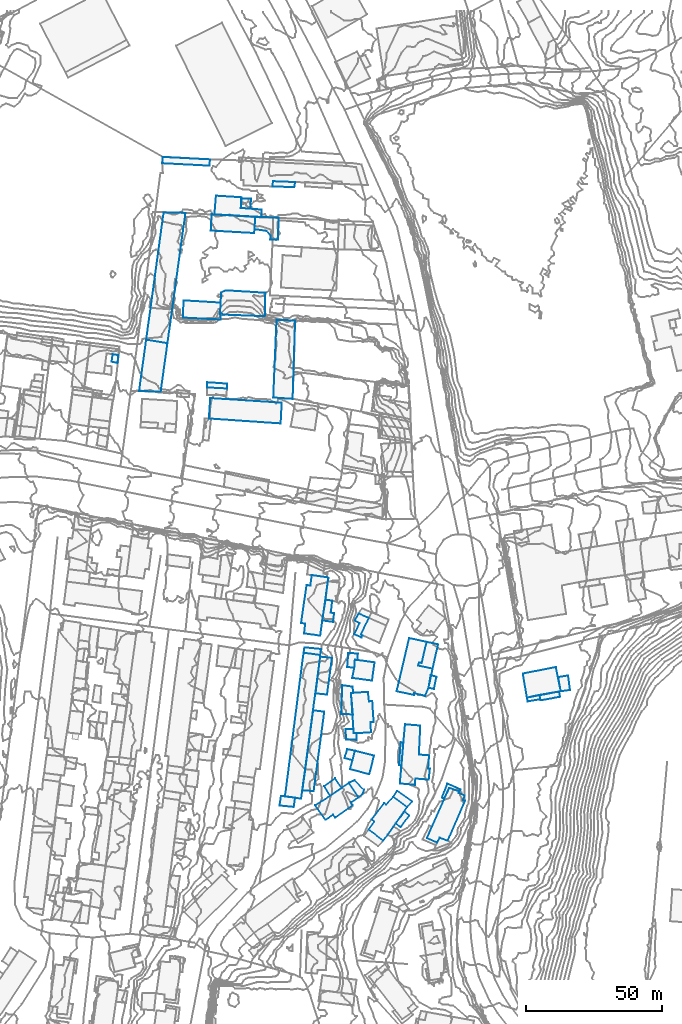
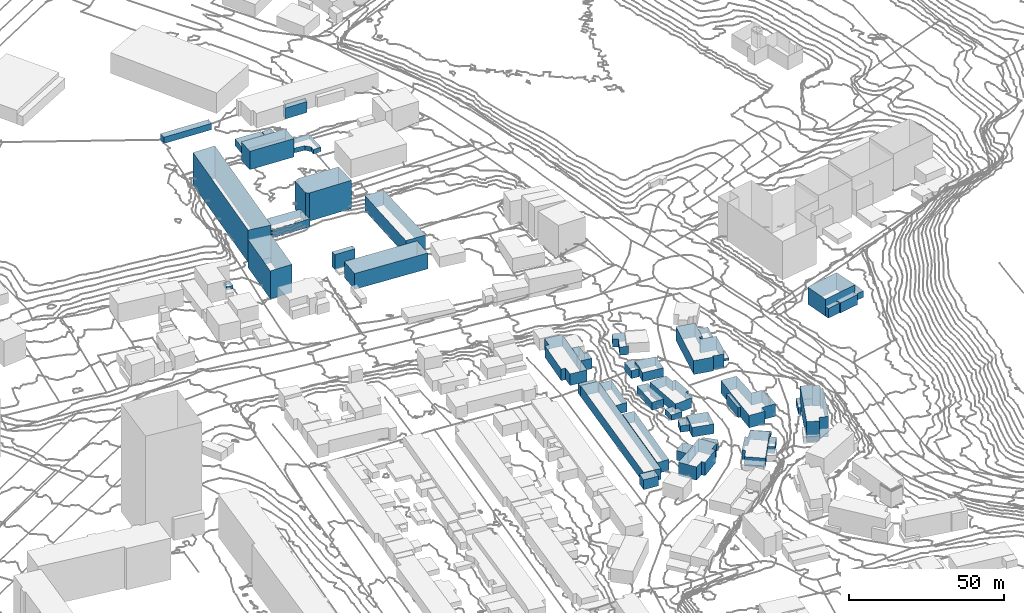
# Not in any storey, part 63 of 419: 46 walls.
"""IFC2X3 model written with IfcOpenShell, lengths in metres."""

from ifc_helpers import new_model, si_unit, frame, origin_with_axes, place, context, subcontext, project, faceted_brep, element, save


model = new_model("IFC2X3")

# Units and contexts
model_context = context("Model", 3, precision=1e-05, world=origin_with_axes())
body_context = subcontext(model_context, "Body", "Model", "MODEL_VIEW")
ifc_project = project(units=[si_unit("AREAUNIT", "SQUARE_METRE"), si_unit("LENGTHUNIT", "METRE")], contexts=[model_context])

# Walls
wall_1_placement = place(None, frame((586.9920204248, 808.9976909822, 41.813999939), z_axis=(0.0, 0.0, 1.0), x_axis=(1.0, 0.0, 0.0)))
element("IfcWall", 1, at=wall_1_placement, Name="Mur 0", context=body_context, shape_type="Brep", body=[
    faceted_brep([(0.0, 0.0, 4.086000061), (1.2999999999, 7.6000000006, 4.086000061), (0.0, 0.0, 0.0), (1.2999999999, 7.6000000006, 0.0), (4.0, -0.5999999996, 4.086000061), (4.0, -0.5999999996, 0.0), (4.4, 2.6000000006, 4.086000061), (4.4, 2.6000000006, 0.0), (3.2, 2.8000000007, 4.086000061), (3.2, 2.8000000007, 0.0), (3.7, 7.2000000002, 4.086000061), (3.7, 7.2000000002, 0.0)], [[[0, 1, 2]], [[2, 1, 3]], [[4, 0, 5]], [[5, 0, 2]], [[6, 4, 7]], [[7, 4, 5]], [[8, 6, 9]], [[9, 6, 7]], [[1, 10, 3]], [[3, 10, 11]], [[10, 8, 11]], [[11, 8, 9]]]),
])
wall_2_placement = place(None, frame((615.4920204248, 749.1976909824, 45.7645987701), z_axis=(0.0, 0.0, 1.0), x_axis=(1.0, 0.0, 0.0)))
element("IfcWall", 2, at=wall_2_placement, Name="Mur 0", context=body_context, shape_type="Brep", body=[
    faceted_brep([(0.0, 0.0, 4.9354012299), (1.2999999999, 15.0, 4.9354012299), (0.0, 0.0, 0.0), (1.2999999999, 15.0, 0.0), (5.5, -0.5, 4.9354012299), (5.5, -0.5, 0.0), (5.7, 1.7999999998, 4.9354012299), (5.7, 1.7999999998, 0.0), (10.6, 1.4000000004, 4.9354012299), (10.6, 1.4000000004, 0.0), (11.0, 5.4000000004, 4.9354012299), (11.0, 5.4000000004, 0.0), (10.4, 5.4000000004, 4.9354012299), (10.4, 5.4000000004, 0.0), (10.7, 10.2999999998, 4.9354012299), (10.7, 10.2999999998, 0.0), (7.0, 10.6000000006, 4.9354012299), (7.0, 10.6000000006, 0.0), (7.5, 21.2000000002, 4.9354012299), (7.5, 21.2000000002, 0.0), (1.9, 21.7000000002, 4.9354012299), (1.9, 21.7000000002, 0.0)], [[[0, 1, 2]], [[2, 1, 3]], [[4, 0, 5]], [[5, 0, 2]], [[6, 4, 7]], [[7, 4, 5]], [[8, 6, 9]], [[9, 6, 7]], [[10, 8, 11]], [[11, 8, 9]], [[12, 10, 13]], [[13, 10, 11]], [[14, 12, 15]], [[15, 12, 13]], [[16, 14, 17]], [[17, 14, 15]], [[18, 16, 19]], [[19, 16, 17]], [[1, 20, 3]], [[3, 20, 21]], [[20, 18, 21]], [[21, 18, 19]]]),
])
wall_3_placement = place(None, frame((625.3920204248, 729.1976909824, 48.9099983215), z_axis=(0.0, 0.0, 1.0), x_axis=(1.0, 0.0, 0.0)))
element("IfcWall", 3, at=wall_3_placement, Name="Mur 0", context=body_context, shape_type="Brep", body=[
    faceted_brep([(14.0, 13.7000000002, 7.9900016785), (7.6, -1.0, 7.9900016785), (14.0, 13.7000000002, 0.0), (7.6, -1.0, 0.0), (13.2, 13.9000000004, 7.9900016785), (13.2, 13.9000000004, 0.0), (13.8999999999, 15.5, 7.9900016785), (13.8999999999, 15.5, 0.0), (11.7, 16.5, 7.9900016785), (11.7, 16.5, 0.0), (11.8999999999, 17.0, 7.9900016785), (11.8999999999, 17.0, 0.0), (8.2, 18.4000000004, 7.9900016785), (8.2, 18.4000000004, 0.0), (0.0, 0.0, 7.9900016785), (0.0, 0.0, 0.0), (3.7, -1.7000000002, 7.9900016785), (3.7, -1.7000000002, 0.0), (4.7, 0.1000000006, 7.9900016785), (4.7, 0.1000000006, 0.0)], [[[0, 1, 2]], [[2, 1, 3]], [[4, 0, 5]], [[5, 0, 2]], [[6, 4, 7]], [[7, 4, 5]], [[8, 6, 9]], [[9, 6, 7]], [[10, 8, 11]], [[11, 8, 9]], [[12, 10, 13]], [[13, 10, 11]], [[14, 12, 15]], [[15, 12, 13]], [[16, 14, 17]], [[17, 14, 15]], [[1, 18, 3]], [[3, 18, 19]], [[18, 16, 19]], [[19, 16, 17]]]),
])
wall_4_placement = place(None, frame((546.1920204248, 951.8976909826, 48.9189990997), z_axis=(0.0, 0.0, 1.0), x_axis=(1.0, 0.0, 0.0)))
element("IfcWall", 4, at=wall_4_placement, Name="Mur 0", context=body_context, shape_type="Brep", body=[
    faceted_brep([(0.0, 0.0, 7.2810009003), (0.3, 6.0, 7.2810009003), (0.0, 0.0, 0.0), (0.3, 6.0, 0.0), (15.9, -0.9000000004, 7.2810009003), (15.9, -0.9000000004, 0.0), (16.3, 5.0999999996, 7.2810009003), (16.3, 5.0999999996, 0.0)], [[[0, 1, 2]], [[2, 1, 3]], [[4, 0, 5]], [[5, 0, 2]], [[1, 6, 3]], [[3, 6, 7]], [[6, 4, 7]], [[7, 4, 5]]]),
])
wall_5_placement = place(None, frame((545.4920204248, 882.9976909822, 43.7359992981), z_axis=(0.0, 0.0, 1.0), x_axis=(1.0, 0.0, 0.0)))
element("IfcWall", 5, at=wall_5_placement, Name="Mur 0", context=body_context, shape_type="Brep", body=[
    faceted_brep([(26.2999999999, -1.7999999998, 6.2640007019), (0.0, 0.0, 6.2640007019), (26.2999999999, -1.7999999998, 0.0), (0.0, 0.0, 0.0), (26.7, 5.8000000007, 6.2640007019), (26.7, 5.8000000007, 0.0), (0.5, 7.5, 6.2640007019), (0.5, 7.5, 0.0)], [[[0, 1, 2]], [[2, 1, 3]], [[4, 0, 5]], [[5, 0, 2]], [[1, 6, 3]], [[3, 6, 7]], [[6, 4, 7]], [[7, 4, 5]]]),
])
wall_6_placement = place(None, frame((580.1920204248, 797.0976909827, 41.4371005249), z_axis=(0.0, 0.0, 1.0), x_axis=(1.0, 0.0, 0.0)))
element("IfcWall", 6, at=wall_6_placement, Name="Mur 0", context=body_context, shape_type="Brep", body=[
    faceted_brep([(6.1, -0.7999999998, 3.7628994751), (0.0, 0.0, 3.7628994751), (6.1, -0.7999999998, 0.0), (0.0, 0.0, 0.0), (6.4, 1.3999999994, 3.7628994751), (6.4, 1.3999999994, 0.0), (0.3, 2.0, 3.7628994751), (0.3, 2.0, 0.0)], [[[0, 1, 2]], [[2, 1, 3]], [[4, 0, 5]], [[5, 0, 2]], [[1, 6, 3]], [[3, 6, 7]], [[6, 4, 7]], [[7, 4, 5]]]),
])
wall_7_placement = place(None, frame((660.5920204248, 789.4976909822, 54.3660003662), z_axis=(0.0, 0.0, 1.0), x_axis=(1.0, 0.0, 0.0)))
element("IfcWall", 7, at=wall_7_placement, Name="Mur 0", context=body_context, shape_type="Brep", body=[
    faceted_brep([(13.9, -6.5, 6.7339996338), (1.5, -8.7999999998, 6.7339996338), (13.9, -6.5, 0.0), (1.5, -8.7999999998, 0.0), (12.1, 2.4000000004, 6.7339996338), (12.1, 2.4000000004, 0.0), (0.0, 0.0, 6.7339996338), (0.0, 0.0, 0.0)], [[[0, 1, 2]], [[2, 1, 3]], [[4, 0, 5]], [[5, 0, 2]], [[1, 6, 3]], [[3, 6, 7]], [[6, 4, 7]], [[7, 4, 5]]]),
])
wall_8_placement = place(None, frame((579.7920204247, 746.6976909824, 41.7746002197), z_axis=(0.0, 0.0, 1.0), x_axis=(1.0, 0.0, 0.0)))
element("IfcWall", 8, at=wall_8_placement, Name="Mur 0", context=body_context, shape_type="Brep", body=[
    faceted_brep([(4.1000000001, -0.2999999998, 4.3253997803), (0.0, 0.0, 4.3253997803), (4.1000000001, -0.2999999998, 0.0), (0.0, 0.0, 0.0), (8.0, 28.7999999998, 4.3253997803), (8.0, 28.7999999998, 0.0), (3.9, 29.2999999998, 4.3253997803), (3.9, 29.2999999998, 0.0)], [[[0, 1, 2]], [[2, 1, 3]], [[4, 0, 5]], [[5, 0, 2]], [[1, 6, 3]], [[3, 6, 7]], [[6, 4, 7]], [[7, 4, 5]]]),
])
wall_9_placement = place(None, frame((579.2920204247, 807.9976909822, 41.4112002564), z_axis=(0.0, 0.0, 1.0), x_axis=(1.0, 0.0, 0.0)))
element("IfcWall", 9, at=wall_9_placement, Name="Mur 0", context=body_context, shape_type="Brep", body=[
    faceted_brep([(3.9, 17.6000000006, 4.5887997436), (9.4, 16.8000000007, 4.5887997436), (3.9, 17.6000000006, 0.0), (9.4, 16.8000000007, 0.0), (3.4, 13.8000000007, 4.5887997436), (3.4, 13.8000000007, 0.0), (2.0, 13.9000000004, 4.5887997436), (2.0, 13.9000000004, 0.0), (0.0, 0.0, 4.5887997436), (0.0, 0.0, 0.0), (1.5, -0.1999999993, 4.5887997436), (1.5, -0.1999999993, 0.0), (1.1000000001, -3.7999999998, 4.5887997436), (1.1000000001, -3.7999999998, 0.0), (7.0, -4.5999999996, 4.5887997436), (7.0, -4.5999999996, 0.0), (10.0, 16.6000000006, 4.5887997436), (10.0, 16.6000000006, 0.0)], [[[0, 1, 2]], [[2, 1, 3]], [[4, 0, 5]], [[5, 0, 2]], [[6, 4, 7]], [[7, 4, 5]], [[8, 6, 9]], [[9, 6, 7]], [[10, 8, 11]], [[11, 8, 9]], [[12, 10, 13]], [[13, 10, 11]], [[14, 12, 15]], [[15, 12, 13]], [[1, 16, 3]], [[3, 16, 17]], [[16, 14, 17]], [[17, 14, 15]]]),
])
wall_10_placement = place(None, frame((666.6920204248, 781.6976909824, 54.5365005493), z_axis=(0.0, 0.0, 1.0), x_axis=(1.0, 0.0, 0.0)))
element("IfcWall", 10, at=wall_10_placement, Name="Mur 0", context=body_context, shape_type="Brep", body=[
    faceted_brep([(0.4, -2.0, 3.9634994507), (0.3, -1.5999999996, 3.9634994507), (0.4, -2.0, 0.0), (0.3, -1.5999999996, 0.0), (7.6, -0.7000000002, 3.9634994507), (7.6, -0.7000000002, 0.0), (7.2000000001, 1.2000000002, 3.9634994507), (7.2000000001, 1.2000000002, 0.0), (0.0, 0.0, 3.9634994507), (0.0, 0.0, 0.0)], [[[0, 1, 2]], [[2, 1, 3]], [[4, 0, 5]], [[5, 0, 2]], [[6, 4, 7]], [[7, 4, 5]], [[1, 8, 3]], [[3, 8, 9]], [[8, 6, 9]], [[9, 6, 7]]]),
])
wall_11_placement = place(None, frame((630.8920204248, 743.9976909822, 48.7660001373), z_axis=(0.0, 0.0, 1.0), x_axis=(1.0, 0.0, 0.0)))
element("IfcWall", 11, at=wall_11_placement, Name="Mur 0", context=body_context, shape_type="Brep", body=[
    faceted_brep([(6.7999999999, 3.0, 2.7339998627), (6.3999999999, 2.2000000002, 2.7339998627), (6.7999999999, 3.0, 0.0), (6.3999999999, 2.2000000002, 0.0), (2.0, 5.2000000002, 2.7339998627), (2.0, 5.2000000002, 0.0), (0.0, 0.0, 2.7339998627), (0.0, 0.0, 0.0), (0.7999999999, -0.2999999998, 2.7339998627), (0.7999999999, -0.2999999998, 0.0), (2.7, 3.6000000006, 2.7339998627), (2.7, 3.6000000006, 0.0)], [[[0, 1, 2]], [[2, 1, 3]], [[4, 0, 5]], [[5, 0, 2]], [[6, 4, 7]], [[7, 4, 5]], [[8, 6, 9]], [[9, 6, 7]], [[1, 10, 3]], [[3, 10, 11]], [[10, 8, 11]], [[11, 8, 9]]]),
])
wall_12_placement = place(None, frame((595.5920204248, 769.1976909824, 45.8778006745), z_axis=(0.0, 0.0, 1.0), x_axis=(1.0, 0.0, 0.0)))
element("IfcWall", 12, at=wall_12_placement, Name="Mur 0", context=body_context, shape_type="Brep", body=[
    faceted_brep([(3.0, -1.5999999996, 2.1221993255), (4.0, -1.5999999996, 2.1221993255), (3.0, -1.5999999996, 0.0), (4.0, -1.5999999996, 0.0), (3.0, 0.0, 2.1221993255), (3.0, 0.0, 0.0), (0.0, 0.0, 2.1221993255), (0.0, 0.0, 0.0), (0.2, -3.8999999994, 2.1221993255), (0.2, -3.8999999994, 0.0), (4.0, -4.0, 2.1221993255), (4.0, -4.0, 0.0)], [[[0, 1, 2]], [[2, 1, 3]], [[4, 0, 5]], [[5, 0, 2]], [[6, 4, 7]], [[7, 4, 5]], [[8, 6, 9]], [[9, 6, 7]], [[1, 10, 3]], [[3, 10, 11]], [[10, 8, 11]], [[11, 8, 9]]]),
])
wall_13_placement = place(None, frame((613.8920204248, 734.4976909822, 45.300499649), z_axis=(0.0, 0.0, 1.0), x_axis=(1.0, 0.0, 0.0)))
element("IfcWall", 13, at=wall_13_placement, Name="Mur 0", context=body_context, shape_type="Brep", body=[
    faceted_brep([(0.0, 0.0, 2.699500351), (3.2999999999, 4.4000000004, 2.699500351), (0.0, 0.0, 0.0), (3.2999999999, 4.4000000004, 0.0), (1.8999999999, -1.2999999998, 2.699500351), (1.8999999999, -1.2999999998, 0.0), (5.0, 3.0, 2.699500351), (5.0, 3.0, 0.0)], [[[0, 1, 2]], [[2, 1, 3]], [[4, 0, 5]], [[5, 0, 2]], [[1, 6, 3]], [[3, 6, 7]], [[6, 4, 7]], [[7, 4, 5]]]),
])
wall_14_placement = place(None, frame((596.7920204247, 749.4976909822, 44.927999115), z_axis=(0.0, 0.0, 1.0), x_axis=(1.0, 0.0, 0.0)))
element("IfcWall", 14, at=wall_14_placement, Name="Mur 0", context=body_context, shape_type="Brep", body=[
    faceted_brep([(3.6000000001, -5.3999999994, 2.172000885), (0.0, 0.0, 2.172000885), (3.6000000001, -5.3999999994, 0.0), (0.0, 0.0, 0.0), (5.0, -4.0999999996, 2.172000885), (5.0, -4.0999999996, 0.0), (5.6000000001, -2.5999999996, 2.172000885), (5.6000000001, -2.5999999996, 0.0), (2.1000000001, 0.9000000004, 2.172000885), (2.1000000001, 0.9000000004, 0.0)], [[[0, 1, 2]], [[2, 1, 3]], [[4, 0, 5]], [[5, 0, 2]], [[6, 4, 7]], [[7, 4, 5]], [[1, 8, 3]], [[3, 8, 9]], [[8, 6, 9]], [[9, 6, 7]]]),
])
wall_15_placement = place(None, frame((622.1920204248, 792.3976909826, 47.4609009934), z_axis=(0.0, 0.0, 1.0), x_axis=(1.0, 0.0, 0.0)))
element("IfcWall", 15, at=wall_15_placement, Name="Mur 0", context=body_context, shape_type="Brep", body=[
    faceted_brep([(1.3, 1.0, 2.2390990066), (3.1, 8.7000000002, 2.2390990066), (1.3, 1.0, 0.0), (3.1, 8.7000000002, 0.0), (0.3, 1.2000000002, 2.2390990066), (0.3, 1.2000000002, 0.0), (0.0, 0.0, 2.2390990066), (0.0, 0.0, 0.0), (5.3, -1.0999999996, 2.2390990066), (5.3, -1.0999999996, 0.0), (7.3, 7.7999999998, 2.2390990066), (7.3, 7.7999999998, 0.0)], [[[0, 1, 2]], [[2, 1, 3]], [[4, 0, 5]], [[5, 0, 2]], [[6, 4, 7]], [[7, 4, 5]], [[8, 6, 9]], [[9, 6, 7]], [[1, 10, 3]], [[3, 10, 11]], [[10, 8, 11]], [[11, 8, 9]]]),
])
wall_16_placement = place(None, frame((528.3920204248, 976.5976909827, 50.4814996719), z_axis=(0.0, 0.0, 1.0), x_axis=(1.0, 0.0, 0.0)))
element("IfcWall", 16, at=wall_16_placement, Name="Mur 0", context=body_context, shape_type="Brep", body=[
    faceted_brep([(17.2999999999, -0.9000000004, 2.5185003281), (0.0, 0.0, 2.5185003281), (17.2999999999, -0.9000000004, 0.0), (0.0, 0.0, 0.0), (17.5, 1.3999999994, 2.5185003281), (17.5, 1.3999999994, 0.0), (0.1, 2.2999999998, 2.5185003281), (0.1, 2.2999999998, 0.0)], [[[0, 1, 2]], [[2, 1, 3]], [[4, 0, 5]], [[5, 0, 2]], [[1, 6, 3]], [[3, 6, 7]], [[6, 4, 7]], [[7, 4, 5]]]),
])
wall_17_placement = place(None, frame((568.7920204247, 968.0976909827, 51.176399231), z_axis=(0.0, 0.0, 1.0), x_axis=(1.0, 0.0, 0.0)))
element("IfcWall", 17, at=wall_17_placement, Name="Mur 0", context=body_context, shape_type="Brep", body=[
    faceted_brep([(0.2000000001, 1.8999999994, 4.323600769), (8.3, 1.5999999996, 4.323600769), (0.2000000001, 1.8999999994, 0.0), (8.3, 1.5999999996, 0.0), (0.0, 0.0, 4.323600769), (0.0, 0.0, 0.0), (8.0, -0.2999999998, 4.323600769), (8.0, -0.2999999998, 0.0)], [[[0, 1, 2]], [[2, 1, 3]], [[4, 0, 5]], [[5, 0, 2]], [[1, 6, 3]], [[3, 6, 7]], [[6, 4, 7]], [[7, 4, 5]]]),
])
wall_18_placement = place(None, frame((522.4920204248, 911.8976909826, 44.8530002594), z_axis=(0.0, 0.0, 1.0), x_axis=(1.0, 0.0, 0.0)))
element("IfcWall", 18, at=wall_18_placement, Name="Mur 0", context=body_context, shape_type="Brep", body=[
    faceted_brep([(6.4, 46.7000000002, 12.8469997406), (14.4, 46.5, 12.8469997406), (6.4, 46.7000000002, 0.0), (14.4, 46.5, 0.0), (0.0, 0.0, 12.8469997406), (0.0, 0.0, 0.0), (7.7999999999, -1.2999999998, 12.8469997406), (7.7999999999, -1.2999999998, 0.0)], [[[0, 1, 2]], [[2, 1, 3]], [[4, 0, 5]], [[5, 0, 2]], [[1, 6, 3]], [[3, 6, 7]], [[6, 4, 7]], [[7, 4, 5]]]),
])
wall_19_placement = place(None, frame((509.7920204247, 903.7976909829, 43.3439994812), z_axis=(0.0, 0.0, 1.0), x_axis=(1.0, 0.0, 0.0)))
element("IfcWall", 19, at=wall_19_placement, Name="Mur 0", context=body_context, shape_type="Brep", body=[
    faceted_brep([(0.4, 2.7999999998, 1.3560005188), (2.5, 2.3999999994, 1.3560005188), (0.4, 2.7999999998, 0.0), (2.5, 2.3999999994, 0.0), (0.0, 0.0, 1.3560005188), (0.0, 0.0, 0.0), (2.2000000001, -0.4000000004, 1.3560005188), (2.2000000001, -0.4000000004, 0.0)], [[[0, 1, 2]], [[2, 1, 3]], [[4, 0, 5]], [[5, 0, 2]], [[1, 6, 3]], [[3, 6, 7]], [[6, 4, 7]], [[7, 4, 5]]]),
])
wall_20_placement = place(None, frame((547.4920204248, 957.7976909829, 50.0370014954), z_axis=(0.0, 0.0, 1.0), x_axis=(1.0, 0.0, 0.0)))
element("IfcWall", 20, at=wall_20_placement, Name="Mur 0", context=body_context, shape_type="Brep", body=[
    faceted_brep([(17.2999999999, 1.7999999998, 2.6629985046), (17.2, -1.0, 2.6629985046), (17.2999999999, 1.7999999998, 0.0), (17.2, -1.0, 0.0), (9.7, 2.3999999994, 2.6629985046), (9.7, 2.3999999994, 0.0), (9.9, 6.2999999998, 2.6629985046), (9.9, 6.2999999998, 0.0), (0.6, 6.8999999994, 2.6629985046), (0.6, 6.8999999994, 0.0), (0.0, 0.0, 2.6629985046), (0.0, 0.0, 0.0)], [[[0, 1, 2]], [[2, 1, 3]], [[4, 0, 5]], [[5, 0, 2]], [[6, 4, 7]], [[7, 4, 5]], [[8, 6, 9]], [[9, 6, 7]], [[1, 10, 3]], [[3, 10, 11]], [[10, 8, 11]], [[11, 8, 9]]]),
])
wall_21_placement = place(None, frame((519.8920204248, 893.0976909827, 42.8270998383), z_axis=(0.0, 0.0, 1.0), x_axis=(1.0, 0.0, 0.0)))
element("IfcWall", 21, at=wall_21_placement, Name="Mur 0", context=body_context, shape_type="Brep", body=[
    faceted_brep([(10.3999999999, 17.5, 11.0729001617), (7.8999999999, -0.2999999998, 11.0729001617), (10.3999999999, 17.5, 0.0), (7.8999999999, -0.2999999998, 0.0), (2.6, 18.7999999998, 11.0729001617), (2.6, 18.7999999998, 0.0), (0.0, 0.0, 11.0729001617), (0.0, 0.0, 0.0)], [[[0, 1, 2]], [[2, 1, 3]], [[4, 0, 5]], [[5, 0, 2]], [[1, 6, 3]], [[3, 6, 7]], [[6, 4, 7]], [[7, 4, 5]]]),
])
wall_22_placement = place(None, frame((595.1920204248, 758.4976909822, 45.4780004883), z_axis=(0.0, 0.0, 1.0), x_axis=(1.0, 0.0, 0.0)))
element("IfcWall", 22, at=wall_22_placement, Name="Mur 0", context=body_context, shape_type="Brep", body=[
    faceted_brep([(3.8, 2.7000000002, 2.5219995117), (2.9, -0.7999999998, 2.5219995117), (3.8, 2.7000000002, 0.0), (2.9, -0.7999999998, 0.0), (1.0, 3.3000000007, 2.5219995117), (1.0, 3.3000000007, 0.0), (0.0, 0.0, 2.5219995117), (0.0, 0.0, 0.0)], [[[0, 1, 2]], [[2, 1, 3]], [[4, 0, 5]], [[5, 0, 2]], [[1, 6, 3]], [[3, 6, 7]], [[6, 4, 7]], [[7, 4, 5]]]),
])
wall_23_placement = place(None, frame((544.7920204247, 894.3976909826, 44.8368000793), z_axis=(0.0, 0.0, 1.0), x_axis=(1.0, 0.0, 0.0)))
element("IfcWall", 23, at=wall_23_placement, Name="Mur 0", context=body_context, shape_type="Brep", body=[
    faceted_brep([(7.4, 1.4000000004, 6.0), (7.3, -0.4000000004, 6.0), (7.4, 1.4000000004, 0.0), (7.3, -0.4000000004, 0.0), (0.0, 1.9000000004, 6.0), (0.0, 1.9000000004, 0.0), (0.0, 0.0, 6.0), (0.0, 0.0, 0.0)], [[[0, 1, 2]], [[2, 1, 3]], [[4, 0, 5]], [[5, 0, 2]], [[1, 6, 3]], [[3, 6, 7]], [[6, 4, 7]], [[7, 4, 5]]]),
])
wall_24_placement = place(None, frame((557.1920204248, 960.1976909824, 50.6668013), z_axis=(0.0, 0.0, 1.0), x_axis=(1.0, 0.0, 0.0)))
element("IfcWall", 24, at=wall_24_placement, Name="Mur 0", context=body_context, shape_type="Brep", body=[
    faceted_brep([(0.0, 0.0, 2.2331987), (0.3, 3.4000000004, 2.2331987), (0.0, 0.0, 0.0), (0.3, 3.4000000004, 0.0), (3.6, -0.2999999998, 2.2331987), (3.6, -0.2999999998, 0.0), (3.7000000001, 3.4000000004, 2.2331987), (3.7000000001, 3.4000000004, 0.0)], [[[0, 1, 2]], [[2, 1, 3]], [[4, 0, 5]], [[5, 0, 2]], [[1, 6, 3]], [[3, 6, 7]], [[6, 4, 7]], [[7, 4, 5]]]),
])
wall_25_placement = place(None, frame((535.9920204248, 919.9976909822, 44.891799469), z_axis=(0.0, 0.0, 1.0), x_axis=(1.0, 0.0, 0.0)))
element("IfcWall", 25, at=wall_25_placement, Name="Mur 0", context=body_context, shape_type="Brep", body=[
    faceted_brep([(13.7999999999, 5.5, 3.208200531), (13.6, 1.9000000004, 3.208200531), (13.7999999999, 5.5, 0.0), (13.6, 1.9000000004, 0.0), (0.2, 6.3000000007, 3.208200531), (0.2, 6.3000000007, 0.0), (0.0, 0.0, 3.208200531), (0.0, 0.0, 0.0), (13.7999999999, -0.6999999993, 3.208200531), (13.7999999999, -0.6999999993, 0.0)], [[[0, 1, 2]], [[2, 1, 3]], [[4, 0, 5]], [[5, 0, 2]], [[6, 4, 7]], [[7, 4, 5]], [[1, 8, 3]], [[3, 8, 9]], [[8, 6, 9]], [[9, 6, 7]]]),
])
wall_26_placement = place(None, frame((596.1920204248, 791.8976909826, 46.0429992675), z_axis=(0.0, 0.0, 1.0), x_axis=(1.0, 0.0, 0.0)))
element("IfcWall", 26, at=wall_26_placement, Name="Mur 0", context=body_context, shape_type="Brep", body=[
    faceted_brep([(2.8, 2.7000000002, 3.1570007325), (2.6, -0.2999999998, 3.1570007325), (2.8, 2.7000000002, 0.0), (2.6, -0.2999999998, 0.0), (3.7000000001, 2.5, 3.1570007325), (3.7000000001, 2.5, 0.0), (3.9, 4.9000000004, 3.1570007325), (3.9, 4.9000000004, 0.0), (0.4, 5.2000000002, 3.1570007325), (0.4, 5.2000000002, 0.0), (0.0, 0.0, 3.1570007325), (0.0, 0.0, 0.0)], [[[0, 1, 2]], [[2, 1, 3]], [[4, 0, 5]], [[5, 0, 2]], [[6, 4, 7]], [[7, 4, 5]], [[8, 6, 9]], [[9, 6, 7]], [[1, 10, 3]], [[3, 10, 11]], [[10, 8, 11]], [[11, 8, 9]]]),
])
wall_27_placement = place(None, frame((562.1920204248, 952.3976909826, 49.4711997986), z_axis=(0.0, 0.0, 1.0), x_axis=(1.0, 0.0, 0.0)))
element("IfcWall", 27, at=wall_27_placement, Name="Mur 0", context=body_context, shape_type="Brep", body=[
    faceted_brep([(0.0, 0.0, 1.8288002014), (0.3, 4.5999999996, 1.8288002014), (0.0, 0.0, 0.0), (0.3, 4.5999999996, 0.0), (4.5, -0.5999999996, 1.8288002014), (4.5, -0.5999999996, 0.0), (5.9, -2.2999999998, 1.8288002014), (5.9, -2.2999999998, 0.0), (5.8, -3.7999999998, 1.8288002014), (5.8, -3.7999999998, 0.0), (8.6, -3.7999999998, 1.8288002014), (8.6, -3.7999999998, 0.0), (8.9, 4.2000000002, 1.8288002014), (8.9, 4.2000000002, 0.0)], [[[0, 1, 2]], [[2, 1, 3]], [[4, 0, 5]], [[5, 0, 2]], [[6, 4, 7]], [[7, 4, 5]], [[8, 6, 9]], [[9, 6, 7]], [[10, 8, 11]], [[11, 8, 9]], [[1, 12, 3]], [[3, 12, 13]], [[12, 10, 13]], [[13, 10, 11]]]),
])
wall_28_placement = place(None, frame((597.9920204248, 787.8976909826, 46.6319999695), z_axis=(0.0, 0.0, 1.0), x_axis=(1.0, 0.0, 0.0)))
element("IfcWall", 28, at=wall_28_placement, Name="Mur 0", context=body_context, shape_type="Brep", body=[
    faceted_brep([(0.0, 0.0, 3.5680000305), (0.7999999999, 3.7000000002, 3.5680000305), (0.0, 0.0, 0.0), (0.7999999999, 3.7000000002, 0.0), (7.2999999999, -1.0, 3.5680000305), (7.2999999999, -1.0, 0.0), (8.2, 5.7000000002, 3.5680000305), (8.2, 5.7000000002, 0.0), (1.0, 6.7000000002, 3.5680000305), (1.0, 6.7000000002, 0.0)], [[[0, 1, 2]], [[2, 1, 3]], [[4, 0, 5]], [[5, 0, 2]], [[6, 4, 7]], [[7, 4, 5]], [[1, 8, 3]], [[3, 8, 9]], [[8, 6, 9]], [[9, 6, 7]]]),
])
wall_29_placement = place(None, frame((614.2920204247, 782.9976909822, 46.7222002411), z_axis=(0.0, 0.0, 1.0), x_axis=(1.0, 0.0, 0.0)))
element("IfcWall", 29, at=wall_29_placement, Name="Mur 0", context=body_context, shape_type="Brep", body=[
    faceted_brep([(10.4, -1.6999999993, 5.4777997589), (6.5, -0.6999999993, 5.4777997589), (10.4, -1.6999999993, 0.0), (6.5, -0.6999999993, 0.0), (11.7000000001, 1.3000000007, 5.4777997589), (11.7000000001, 1.3000000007, 0.0), (13.2000000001, 8.3000000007, 5.4777997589), (13.2000000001, 8.3000000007, 0.0), (7.9, 9.4000000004, 5.4777997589), (7.9, 9.4000000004, 0.0), (8.2000000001, 10.6000000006, 5.4777997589), (8.2000000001, 10.6000000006, 0.0), (9.2000000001, 10.4000000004, 5.4777997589), (9.2000000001, 10.4000000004, 0.0), (11.0, 18.1000000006, 5.4777997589), (11.0, 18.1000000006, 0.0), (4.6000000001, 19.5, 5.4777997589), (4.6000000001, 19.5, 0.0), (0.0, 0.0, 5.4777997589), (0.0, 0.0, 0.0), (6.5, -1.3999999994, 5.4777997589), (6.5, -1.3999999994, 0.0)], [[[0, 1, 2]], [[2, 1, 3]], [[4, 0, 5]], [[5, 0, 2]], [[6, 4, 7]], [[7, 4, 5]], [[8, 6, 9]], [[9, 6, 7]], [[10, 8, 11]], [[11, 8, 9]], [[12, 10, 13]], [[13, 10, 11]], [[14, 12, 15]], [[15, 12, 13]], [[16, 14, 17]], [[17, 14, 15]], [[18, 16, 19]], [[19, 16, 17]], [[1, 20, 3]], [[3, 20, 21]], [[20, 18, 21]], [[21, 18, 19]]]),
])
wall_30_placement = place(None, frame((584.5920204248, 782.1976909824, 41.7473012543), z_axis=(0.0, 0.0, 1.0), x_axis=(1.0, 0.0, 0.0)))
element("IfcWall", 30, at=wall_30_placement, Name="Mur 0", context=body_context, shape_type="Brep", body=[
    faceted_brep([(0.0, 0.0, 3.6526987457), (1.7, 13.5, 3.6526987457), (0.0, 0.0, 0.0), (1.7, 13.5, 0.0), (4.2, -0.3999999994, 3.6526987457), (4.2, -0.3999999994, 0.0), (6.0, 13.0, 3.6526987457), (6.0, 13.0, 0.0)], [[[0, 1, 2]], [[2, 1, 3]], [[4, 0, 5]], [[5, 0, 2]], [[1, 6, 3]], [[3, 6, 7]], [[6, 4, 7]], [[7, 4, 5]]]),
])
wall_31_placement = place(None, frame((615.1920204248, 755.8976909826, 45.9370002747), z_axis=(0.0, 0.0, 1.0), x_axis=(1.0, 0.0, 0.0)))
element("IfcWall", 31, at=wall_31_placement, Name="Mur 0", context=body_context, shape_type="Brep", body=[
    faceted_brep([(0.0, 0.0, 3.8629997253), (0.6, 8.4000000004, 3.8629997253), (0.0, 0.0, 0.0), (0.6, 8.4000000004, 0.0), (0.9, -0.0999999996, 3.8629997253), (0.9, -0.0999999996, 0.0), (1.6, 8.2999999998, 3.8629997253), (1.6, 8.2999999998, 0.0)], [[[0, 1, 2]], [[2, 1, 3]], [[4, 0, 5]], [[5, 0, 2]], [[1, 6, 3]], [[3, 6, 7]], [[6, 4, 7]], [[7, 4, 5]]]),
])
wall_32_placement = place(None, frame((569.0920204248, 890.6976909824, 44.1744997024), z_axis=(0.0, 0.0, 1.0), x_axis=(1.0, 0.0, 0.0)))
element("IfcWall", 32, at=wall_32_placement, Name="Mur 0", context=body_context, shape_type="Brep", body=[
    faceted_brep([(1.2, 28.5, 5.9255002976), (8.0, 28.2000000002, 5.9255002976), (1.2, 28.5, 0.0), (8.0, 28.2000000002, 0.0), (0.0, 0.0, 5.9255002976), (0.0, 0.0, 0.0), (7.1, -0.5, 5.9255002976), (7.1, -0.5, 0.0)], [[[0, 1, 2]], [[2, 1, 3]], [[4, 0, 5]], [[5, 0, 2]], [[1, 6, 3]], [[3, 6, 7]], [[6, 4, 7]], [[7, 4, 5]]]),
])
wall_33_placement = place(None, frame((573.3920204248, 744.4976909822, 41.4899991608), z_axis=(0.0, 0.0, 1.0), x_axis=(1.0, 0.0, 0.0)))
element("IfcWall", 33, at=wall_33_placement, Name="Mur 0", context=body_context, shape_type="Brep", body=[
    faceted_brep([(5.8999999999, -0.8999999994, 4.3100008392), (3.7, -0.5, 4.3100008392), (5.8999999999, -0.8999999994, 0.0), (3.7, -0.5, 0.0), (12.8999999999, 51.2000000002, 4.3100008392), (12.8999999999, 51.2000000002, 0.0), (12.8999999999, 51.8000000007, 4.3100008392), (12.8999999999, 51.8000000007, 0.0), (6.7999999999, 52.6000000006, 4.3100008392), (6.7999999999, 52.6000000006, 0.0), (0.0, 0.0, 4.3100008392), (0.0, 0.0, 0.0)], [[[0, 1, 2]], [[2, 1, 3]], [[4, 0, 5]], [[5, 0, 2]], [[6, 4, 7]], [[7, 4, 5]], [[8, 6, 9]], [[9, 6, 7]], [[1, 10, 3]], [[3, 10, 11]], [[10, 8, 11]], [[11, 8, 9]]]),
])
wall_34_placement = place(None, frame((598.6920204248, 803.8976909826, 47.1650007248), z_axis=(0.0, 0.0, 1.0), x_axis=(1.0, 0.0, 0.0)))
element("IfcWall", 34, at=wall_34_placement, Name="Mur 0", context=body_context, shape_type="Brep", body=[
    faceted_brep([(2.5, -0.0999999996, 3.2349992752), (3.1, -0.4000000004, 3.2349992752), (2.5, -0.0999999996, 0.0), (3.1, -0.4000000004, 0.0), (5.4, 6.0, 3.2349992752), (5.4, 6.0, 0.0), (1.6, 7.5999999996, 3.2349992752), (1.6, 7.5999999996, 0.0), (0.3, 5.0, 3.2349992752), (0.3, 5.0, 0.0), (2.0, 4.0999999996, 3.2349992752), (2.0, 4.0999999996, 0.0), (0.0, 0.0, 3.2349992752), (0.0, 0.0, 0.0), (2.7000000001, -1.2000000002, 3.2349992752), (2.7000000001, -1.2000000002, 0.0)], [[[0, 1, 2]], [[2, 1, 3]], [[4, 0, 5]], [[5, 0, 2]], [[6, 4, 7]], [[7, 4, 5]], [[8, 6, 9]], [[9, 6, 7]], [[10, 8, 11]], [[11, 8, 9]], [[12, 10, 13]], [[13, 10, 11]], [[1, 14, 3]], [[3, 14, 15]], [[14, 12, 15]], [[15, 12, 13]]]),
])
wall_35_placement = place(None, frame((593.9920204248, 774.6976909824, 44.7739998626), z_axis=(0.0, 0.0, 1.0), x_axis=(1.0, 0.0, 0.0)))
element("IfcWall", 35, at=wall_35_placement, Name="Mur 0", context=body_context, shape_type="Brep", body=[
    faceted_brep([(3.6, 7.7000000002, 3.1260001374), (4.2999999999, -0.2000000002, 3.1260001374), (3.6, 7.7000000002, 0.0), (4.2999999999, -0.2000000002, 0.0), (4.4, 7.6000000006, 3.1260001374), (4.4, 7.6000000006, 0.0), (4.2, 10.0, 3.1260001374), (4.2, 10.0, 0.0), (0.4, 10.5, 3.1260001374), (0.4, 10.5, 0.0), (0.0, 0.0, 3.1260001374), (0.0, 0.0, 0.0)], [[[0, 1, 2]], [[2, 1, 3]], [[4, 0, 5]], [[5, 0, 2]], [[6, 4, 7]], [[7, 4, 5]], [[8, 6, 9]], [[9, 6, 7]], [[1, 10, 3]], [[3, 10, 11]], [[10, 8, 11]], [[11, 8, 9]]]),
])
wall_36_placement = place(None, frame((597.1920204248, 754.3976909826, 45.388199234), z_axis=(0.0, 0.0, 1.0), x_axis=(1.0, 0.0, 0.0)))
element("IfcWall", 36, at=wall_36_placement, Name="Mur 0", context=body_context, shape_type="Brep", body=[
    faceted_brep([(0.0, 0.0, 3.811800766), (0.9, 3.2999999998, 3.811800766), (0.0, 0.0, 0.0), (0.9, 3.2999999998, 0.0), (7.1, -1.7999999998, 3.811800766), (7.1, -1.7999999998, 0.0), (8.8, 5.0, 3.811800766), (8.8, 5.0, 0.0), (1.8, 6.7999999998, 3.811800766), (1.8, 6.7999999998, 0.0)], [[[0, 1, 2]], [[2, 1, 3]], [[4, 0, 5]], [[5, 0, 2]], [[6, 4, 7]], [[7, 4, 5]], [[1, 8, 3]], [[3, 8, 9]], [[8, 6, 9]], [[9, 6, 7]]]),
])
wall_37_placement = place(None, frame((584.3920204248, 741.1976909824, 42.7331997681), z_axis=(0.0, 0.0, 1.0), x_axis=(1.0, 0.0, 0.0)))
element("IfcWall", 37, at=wall_37_placement, Name="Mur 0", context=body_context, shape_type="Brep", body=[
    faceted_brep([(0.0, 0.0, 5.2668002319), (5.6, 3.5, 5.2668002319), (0.0, 0.0, 0.0), (5.6, 3.5, 0.0), (3.7999999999, -5.2999999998, 5.2668002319), (3.7999999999, -5.2999999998, 0.0), (6.7, -3.3999999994, 5.2668002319), (6.7, -3.3999999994, 0.0), (7.3999999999, -4.5, 5.2668002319), (7.3999999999, -4.5, 0.0), (13.7999999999, 0.0, 5.2668002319), (13.7999999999, 0.0, 0.0), (13.2, 1.1000000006, 5.2668002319), (13.2, 1.1000000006, 0.0), (16.0, 2.9000000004, 5.2668002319), (16.0, 2.9000000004, 0.0), (12.3999999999, 8.2999999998, 5.2668002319), (12.3999999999, 8.2999999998, 0.0)], [[[0, 1, 2]], [[2, 1, 3]], [[4, 0, 5]], [[5, 0, 2]], [[6, 4, 7]], [[7, 4, 5]], [[8, 6, 9]], [[9, 6, 7]], [[10, 8, 11]], [[11, 8, 9]], [[12, 10, 13]], [[13, 10, 11]], [[14, 12, 15]], [[15, 12, 13]], [[1, 16, 3]], [[3, 16, 17]], [[16, 14, 17]], [[17, 14, 15]]]),
])
wall_38_placement = place(None, frame((587.7920204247, 748.1976909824, 43.3900001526), z_axis=(0.0, 0.0, 1.0), x_axis=(1.0, 0.0, 0.0)))
element("IfcWall", 38, at=wall_38_placement, Name="Mur 0", context=body_context, shape_type="Brep", body=[
    faceted_brep([(6.4, -0.7000000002, 3.8099998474), (2.2000000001, -3.5, 3.8099998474), (6.4, -0.7000000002, 0.0), (2.2000000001, -3.5, 0.0), (3.9, 2.9000000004, 3.8099998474), (3.9, 2.9000000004, 0.0), (0.0, 0.0, 3.8099998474), (0.0, 0.0, 0.0)], [[[0, 1, 2]], [[2, 1, 3]], [[4, 0, 5]], [[5, 0, 2]], [[1, 6, 3]], [[3, 6, 7]], [[6, 4, 7]], [[7, 4, 5]]]),
])
wall_39_placement = place(None, frame((603.9920204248, 732.2976909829, 45.0269996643), z_axis=(0.0, 0.0, 1.0), x_axis=(1.0, 0.0, 0.0)))
element("IfcWall", 39, at=wall_39_placement, Name="Mur 0", context=body_context, shape_type="Brep", body=[
    faceted_brep([(14.1, 8.1999999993, 3.6730003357), (5.4, -4.1000000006, 3.6730003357), (14.1, 8.1999999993, 0.0), (5.4, -4.1000000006, 0.0), (9.0, 12.0, 3.6730003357), (9.0, 12.0, 0.0), (6.5, 9.0999999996, 3.6730003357), (6.5, 9.0999999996, 0.0), (5.7, 9.6999999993, 3.6730003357), (5.7, 9.6999999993, 0.0), (1.1, 3.6999999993, 3.6730003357), (1.1, 3.6999999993, 0.0), (2.1, 2.8999999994, 3.6730003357), (2.1, 2.8999999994, 0.0), (0.0, 0.0, 3.6730003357), (0.0, 0.0, 0.0)], [[[0, 1, 2]], [[2, 1, 3]], [[4, 0, 5]], [[5, 0, 2]], [[6, 4, 7]], [[7, 4, 5]], [[8, 6, 9]], [[9, 6, 7]], [[10, 8, 11]], [[11, 8, 9]], [[12, 10, 13]], [[13, 10, 11]], [[1, 14, 3]], [[3, 14, 15]], [[14, 12, 15]], [[15, 12, 13]]]),
])
wall_40_placement = place(None, frame((625.9920204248, 784.2976909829, 47.115200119), z_axis=(0.0, 0.0, 1.0), x_axis=(1.0, 0.0, 0.0)))
element("IfcWall", 40, at=wall_40_placement, Name="Mur 0", context=body_context, shape_type="Brep", body=[
    faceted_brep([(0.0, 0.0, 0.884799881), (0.7999999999, 4.5999999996, 0.884799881), (0.0, 0.0, 0.0), (0.7999999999, 4.5999999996, 0.0), (2.0, -0.5, 0.884799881), (2.0, -0.5, 0.0), (2.9, 4.0, 0.884799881), (2.9, 4.0, 0.0)], [[[0, 1, 2]], [[2, 1, 3]], [[4, 0, 5]], [[5, 0, 2]], [[1, 6, 3]], [[3, 6, 7]], [[6, 4, 7]], [[7, 4, 5]]]),
])
wall_41_placement = place(None, frame((662.0920204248, 780.6976909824, 54.373999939), z_axis=(0.0, 0.0, 1.0), x_axis=(1.0, 0.0, 0.0)))
element("IfcWall", 41, at=wall_41_placement, Name="Mur 0", context=body_context, shape_type="Brep", body=[
    faceted_brep([(4.6, 1.0, 3.826000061), (4.9, -0.5999999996, 3.826000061), (4.6, 1.0, 0.0), (4.9, -0.5999999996, 0.0), (0.0, 0.0, 3.826000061), (0.0, 0.0, 0.0), (0.3, -1.3999999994, 3.826000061), (0.3, -1.3999999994, 0.0)], [[[0, 1, 2]], [[2, 1, 3]], [[4, 0, 5]], [[5, 0, 2]], [[1, 6, 3]], [[3, 6, 7]], [[6, 4, 7]], [[7, 4, 5]]]),
])
wall_42_placement = place(None, frame((612.9920204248, 744.2976909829, 45.513600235), z_axis=(0.0, 0.0, 1.0), x_axis=(1.0, 0.0, 0.0)))
element("IfcWall", 42, at=wall_42_placement, Name="Mur 0", context=body_context, shape_type="Brep", body=[
    faceted_brep([(6.9, -1.7000000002, 1.386399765), (5.1, -3.8000000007, 1.386399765), (6.9, -1.7000000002, 0.0), (5.1, -3.8000000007, 0.0), (1.5, 2.1999999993, 1.386399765), (1.5, 2.1999999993, 0.0), (0.0, 0.0, 1.386399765), (0.0, 0.0, 0.0)], [[[0, 1, 2]], [[2, 1, 3]], [[4, 0, 5]], [[5, 0, 2]], [[1, 6, 3]], [[3, 6, 7]], [[6, 4, 7]], [[7, 4, 5]]]),
])
wall_43_placement = place(None, frame((571.3920204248, 741.0976909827, 41.7127996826), z_axis=(0.0, 0.0, 1.0), x_axis=(1.0, 0.0, 0.0)))
element("IfcWall", 43, at=wall_43_placement, Name="Mur 0", context=body_context, shape_type="Brep", body=[
    faceted_brep([(0.5, 3.5, 3.8872003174), (5.7, 2.8999999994, 3.8872003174), (0.5, 3.5, 0.0), (5.7, 2.8999999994, 0.0), (0.0, 0.0, 3.8872003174), (0.0, 0.0, 0.0), (5.2, -0.5, 3.8872003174), (5.2, -0.5, 0.0)], [[[0, 1, 2]], [[2, 1, 3]], [[4, 0, 5]], [[5, 0, 2]], [[1, 6, 3]], [[3, 6, 7]], [[6, 4, 7]], [[7, 4, 5]]]),
])
wall_44_placement = place(None, frame((673.5920204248, 788.1976909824, 54.6268000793), z_axis=(0.0, 0.0, 1.0), x_axis=(1.0, 0.0, 0.0)))
element("IfcWall", 44, at=wall_44_placement, Name="Mur 0", context=body_context, shape_type="Brep", body=[
    faceted_brep([(0.9, -5.2000000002, 2.5731999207), (0.0, 0.0, 2.5731999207), (0.9, -5.2000000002, 0.0), (0.0, 0.0, 0.0), (4.3, -4.7000000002, 2.5731999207), (4.3, -4.7000000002, 0.0), (3.6, 0.6000000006, 2.5731999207), (3.6, 0.6000000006, 0.0)], [[[0, 1, 2]], [[2, 1, 3]], [[4, 0, 5]], [[5, 0, 2]], [[1, 6, 3]], [[3, 6, 7]], [[6, 4, 7]], [[7, 4, 5]]]),
])
wall_45_placement = place(None, frame((549.5920204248, 921.8976909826, 45.7330001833), z_axis=(0.0, 0.0, 1.0), x_axis=(1.0, 0.0, 0.0)))
element("IfcWall", 45, at=wall_45_placement, Name="Mur 0", context=body_context, shape_type="Brep", body=[
    faceted_brep([(1.0, -0.7999999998, 11.1669998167), (0.0, 0.0, 11.1669998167), (1.0, -0.7999999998, 0.0), (0.0, 0.0, 0.0), (16.4, -1.4000000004, 11.1669998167), (16.4, -1.4000000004, 0.0), (16.6, 7.2000000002, 11.1669998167), (16.6, 7.2000000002, 0.0), (2.0, 8.0999999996, 11.1669998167), (2.0, 8.0999999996, 0.0), (0.4, 7.2999999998, 11.1669998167), (0.4, 7.2999999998, 0.0)], [[[0, 1, 2]], [[2, 1, 3]], [[4, 0, 5]], [[5, 0, 2]], [[6, 4, 7]], [[7, 4, 5]], [[8, 6, 9]], [[9, 6, 7]], [[1, 10, 3]], [[3, 10, 11]], [[10, 8, 11]], [[11, 8, 9]]]),
])
wall_46_placement = place(None, frame((597.5920204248, 782.3976909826, 46.0352000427), z_axis=(0.0, 0.0, 1.0), x_axis=(1.0, 0.0, 0.0)))
element("IfcWall", 46, at=wall_46_placement, Name="Mur 0", context=body_context, shape_type="Brep", body=[
    faceted_brep([(7.3, -14.4000000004, 3.9647999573), (2.0, -14.7999999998, 3.9647999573), (7.3, -14.4000000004, 0.0), (2.0, -14.7999999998, 0.0), (7.2, -10.7000000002, 3.9647999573), (7.2, -10.7000000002, 0.0), (8.3, -10.7000000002, 3.9647999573), (8.3, -10.7000000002, 0.0), (7.8, -3.0, 3.9647999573), (7.8, -3.0, 0.0), (6.6, -3.0999999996, 3.9647999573), (6.6, -3.0999999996, 0.0), (6.2, 0.4000000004, 3.9647999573), (6.2, 0.4000000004, 0.0), (0.0, 0.0, 3.9647999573), (0.0, 0.0, 0.0), (1.0, -14.7999999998, 3.9647999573), (1.0, -14.7999999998, 0.0)], [[[0, 1, 2]], [[2, 1, 3]], [[4, 0, 5]], [[5, 0, 2]], [[6, 4, 7]], [[7, 4, 5]], [[8, 6, 9]], [[9, 6, 7]], [[10, 8, 11]], [[11, 8, 9]], [[12, 10, 13]], [[13, 10, 11]], [[14, 12, 15]], [[15, 12, 13]], [[1, 16, 3]], [[3, 16, 17]], [[16, 14, 17]], [[17, 14, 15]]]),
])

save(model, "model.ifc")
